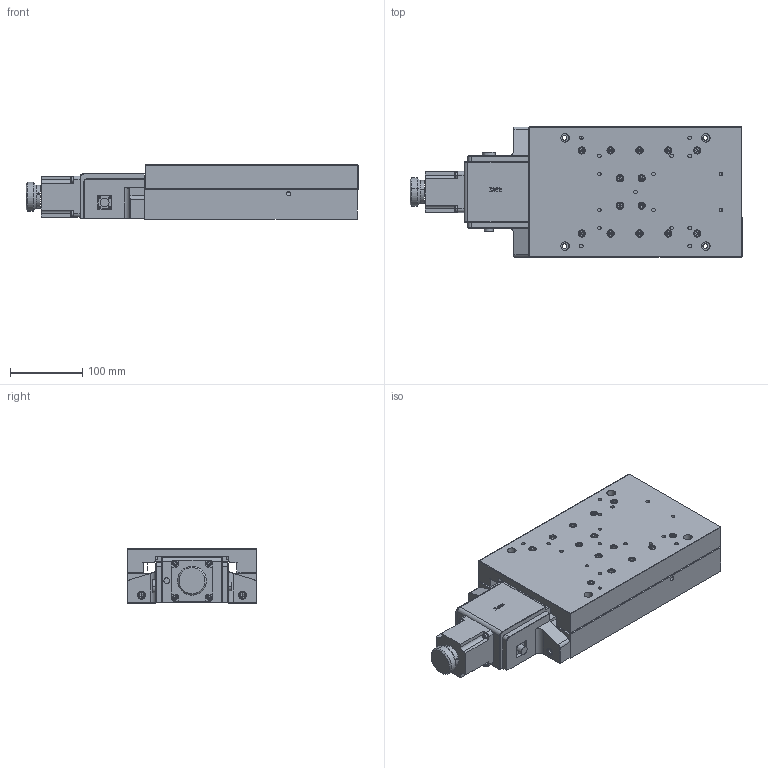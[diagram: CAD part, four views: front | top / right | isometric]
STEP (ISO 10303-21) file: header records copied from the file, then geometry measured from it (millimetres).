
FILE_DESCRIPTION (( 'STEP AP203' ), '1' );
FILE_NAME ('uKSA100.step', '2019-05-06T08:40:38', ( '' ), ( '' ), 'SwSTEP 2.0', 'SolidWorks 2017', '' );
FILE_SCHEMA (( 'CONFIG_CONTROL_DESIGN' ));
Length unit declared in the file: millimetre
Products named in the file (1): uKSA100
Bounding box: 459.86 x 180 x 75 mm (x, y, z)
Surface area: 393598.4 mm2 (no closed solid volume)
Topology: 0 solids, 61 shells, 602 faces, 2093 edges, 1504 vertices
Faces by surface type: plane 303, cylinder 206, cone 52, torus 40, bspline 1
Entity records: 22966 total; most frequent: CARTESIAN_POINT 4605, DIRECTION 3989, ORIENTED_EDGE 3214, EDGE_CURVE 2057, VERTEX_POINT 1504, AXIS2_PLACEMENT_3D 1360, LINE 1269, VECTOR 1269
